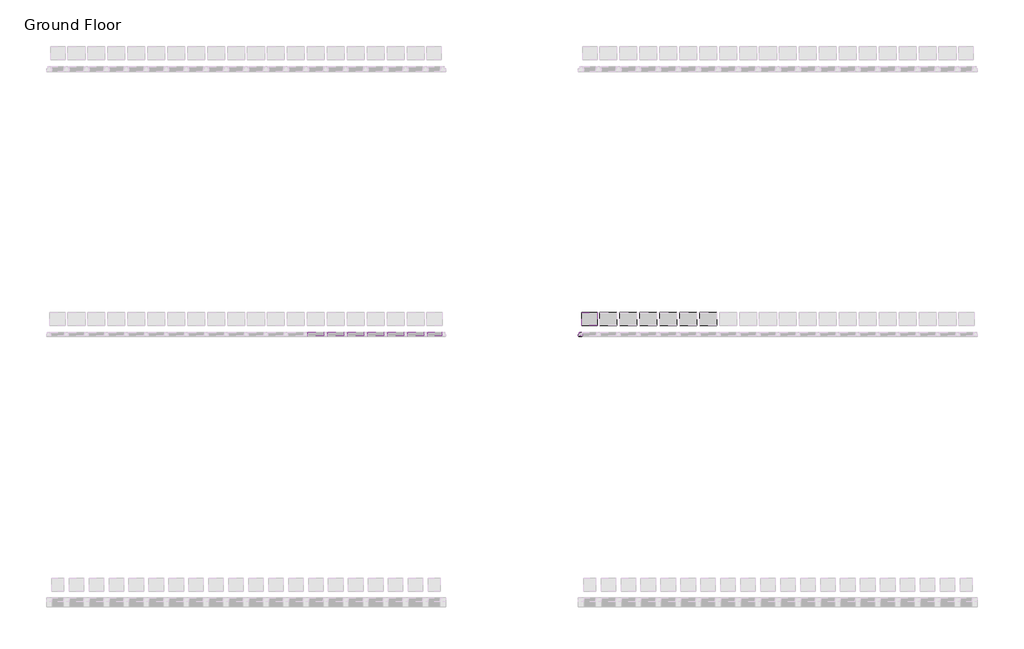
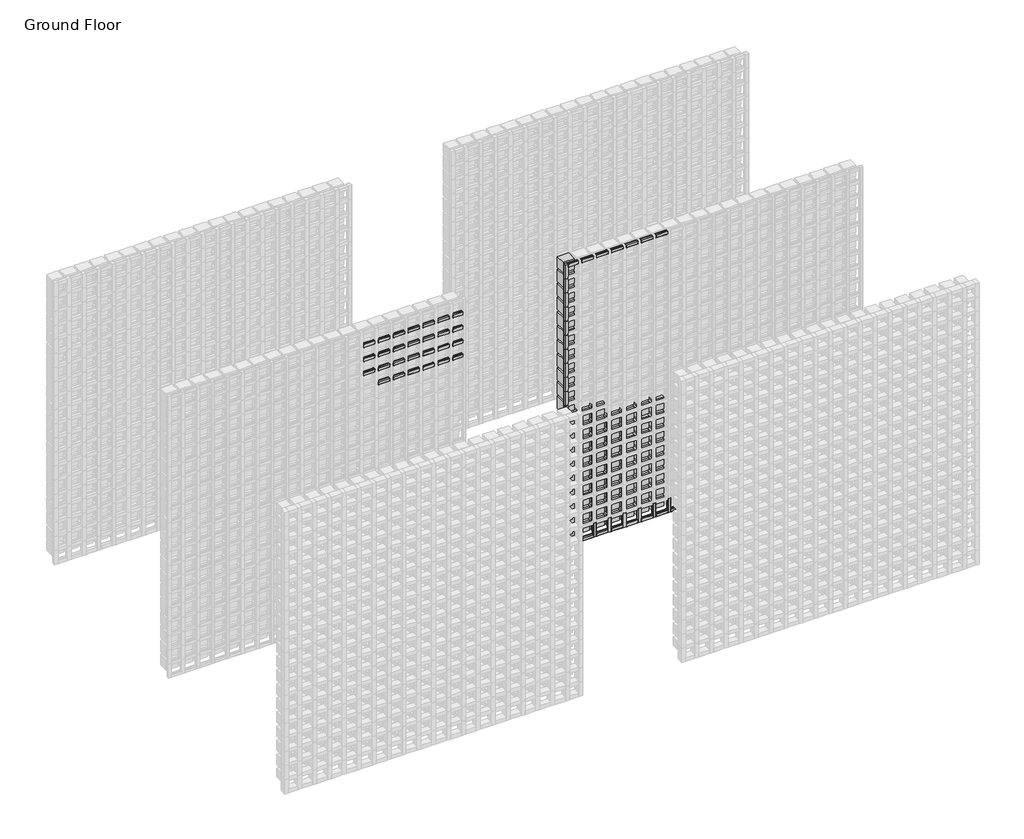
# One storey, part 135 of 350: 70 plates, 69 members.
"""IFC4 building model written with IfcOpenShell, lengths in millimetres."""

from ifc_helpers import new_model, si_unit, origin, place, context, project, spatial, transform, mapped, element, save
from components import rectangular_mullion_e2bab149, rectangular_mullion_707a50c4, rectangular_mullion_f1976eb1, rectangular_mullion_66d447bf, rectangular_mullion_02594090, rectangular_mullion_7f8dba3f, rectangular_mullion_790ae51e, rectangular_mullion_f16743ad, empty_system_panel_empty_5a3607ba, empty_system_panel_empty_c8609655, empty_system_panel_empty_babc703c, empty_system_panel_empty_53187d3d

model = new_model("IFC4")

# Units and contexts
model_context = context("Model", 3, world=origin())
ifc_project = project(units=[si_unit("LENGTHUNIT", "METRE", prefix="MILLI")], contexts=[model_context])

# Site, building, storey
site = spatial("IfcSite", under=ifc_project)
building = spatial("IfcBuilding", under=site)
storey = spatial("IfcBuildingStorey", under=building, Name="Ground Floor", Elevation=0.0)

# Members
placement = place(None, origin())
rectangular_mullion_shape = rectangular_mullion_e2bab149(model_context)
element("IfcMember", 1, ObjectType="Rectangular Mullion : Batten_Timber_Modinex_Austratus_Grid_Fin_30x30_Blackbutt", at=placement, inside=storey, context=model_context, shape_type="MappedRepresentation", body=[
    mapped(rectangular_mullion_shape, transform((8886.4361639, 42968.2978302, 2400.0), x_axis=(0.0, 0.0, 1.0), y_axis=(0.0, -1.0, 0.0), z_axis=(1.0, 0.0, 0.0))),
])
element("IfcMember", 2, ObjectType="Rectangular Mullion : Batten_Timber_Modinex_Austratus_Grid_Fin_30x30_Blackbutt", at=placement, inside=storey, context=model_context, shape_type="MappedRepresentation", body=[
    mapped(rectangular_mullion_shape, transform((8886.4361639, 42968.2978302, 2550.0), x_axis=(0.0, 0.0, 1.0), y_axis=(0.0, -1.0, 0.0), z_axis=(1.0, 0.0, 0.0))),
])
element("IfcMember", 3, ObjectType="Rectangular Mullion : Batten_Timber_Modinex_Austratus_Grid_Fin_30x30_Blackbutt", at=placement, inside=storey, context=model_context, shape_type="MappedRepresentation", body=[
    mapped(rectangular_mullion_shape, transform((8886.4361639, 42968.2978302, 2700.0), x_axis=(0.0, 0.0, 1.0), y_axis=(0.0, -1.0, 0.0), z_axis=(1.0, 0.0, 0.0))),
])
element("IfcMember", 4, ObjectType="Rectangular Mullion : Batten_Timber_Modinex_Austratus_Grid_Fin_30x30_Blackbutt", at=placement, inside=storey, context=model_context, shape_type="MappedRepresentation", body=[
    mapped(rectangular_mullion_shape, transform((8886.4361639, 42968.2978302, 2850.0), x_axis=(0.0, 0.0, 1.0), y_axis=(0.0, -1.0, 0.0), z_axis=(1.0, 0.0, 0.0))),
])
rectangular_mullion_2_shape = rectangular_mullion_707a50c4(model_context)
element("IfcMember", 5, ObjectType="Rectangular Mullion : Batten_Timber_Modinex_Austratus_Grid_Fin_30x30_Blackbutt", at=placement, inside=storey, context=model_context, shape_type="MappedRepresentation", body=[
    mapped(rectangular_mullion_2_shape, transform((8151.4361642, 42968.2978302, 2400.0), x_axis=(0.0, 0.0, 1.0), y_axis=(0.0, -1.0, 0.0), z_axis=(1.0, 0.0, 0.0))),
])
element("IfcMember", 6, ObjectType="Rectangular Mullion : Batten_Timber_Modinex_Austratus_Grid_Fin_30x30_Blackbutt", at=placement, inside=storey, context=model_context, shape_type="MappedRepresentation", body=[
    mapped(rectangular_mullion_2_shape, transform((8301.4361642, 42968.2978302, 2400.0), x_axis=(0.0, 0.0, 1.0), y_axis=(0.0, -1.0, 0.0), z_axis=(1.0, 0.0, 0.0))),
])
element("IfcMember", 7, ObjectType="Rectangular Mullion : Batten_Timber_Modinex_Austratus_Grid_Fin_30x30_Blackbutt", at=placement, inside=storey, context=model_context, shape_type="MappedRepresentation", body=[
    mapped(rectangular_mullion_2_shape, transform((8451.4361642, 42968.2978302, 2400.0), x_axis=(0.0, 0.0, 1.0), y_axis=(0.0, -1.0, 0.0), z_axis=(1.0, 0.0, 0.0))),
])
element("IfcMember", 8, ObjectType="Rectangular Mullion : Batten_Timber_Modinex_Austratus_Grid_Fin_30x30_Blackbutt", at=placement, inside=storey, context=model_context, shape_type="MappedRepresentation", body=[
    mapped(rectangular_mullion_2_shape, transform((8601.4361642, 42968.2978302, 2400.0), x_axis=(0.0, 0.0, 1.0), y_axis=(0.0, -1.0, 0.0), z_axis=(1.0, 0.0, 0.0))),
])
element("IfcMember", 9, ObjectType="Rectangular Mullion : Batten_Timber_Modinex_Austratus_Grid_Fin_30x30_Blackbutt", at=placement, inside=storey, context=model_context, shape_type="MappedRepresentation", body=[
    mapped(rectangular_mullion_2_shape, transform((8751.4361642, 42968.2978302, 2400.0), x_axis=(0.0, 0.0, 1.0), y_axis=(0.0, -1.0, 0.0), z_axis=(1.0, 0.0, 0.0))),
])
element("IfcMember", 10, ObjectType="Rectangular Mullion : Batten_Timber_Modinex_Austratus_Grid_Fin_30x30_Blackbutt", at=placement, inside=storey, context=model_context, shape_type="MappedRepresentation", body=[
    mapped(rectangular_mullion_2_shape, transform((8001.4361642, 42968.2978302, 2550.0), x_axis=(0.0, 0.0, 1.0), y_axis=(0.0, -1.0, 0.0), z_axis=(1.0, 0.0, 0.0))),
])
element("IfcMember", 11, ObjectType="Rectangular Mullion : Batten_Timber_Modinex_Austratus_Grid_Fin_30x30_Blackbutt", at=placement, inside=storey, context=model_context, shape_type="MappedRepresentation", body=[
    mapped(rectangular_mullion_2_shape, transform((8151.4361642, 42968.2978302, 2550.0), x_axis=(0.0, 0.0, 1.0), y_axis=(0.0, -1.0, 0.0), z_axis=(1.0, 0.0, 0.0))),
])
element("IfcMember", 12, ObjectType="Rectangular Mullion : Batten_Timber_Modinex_Austratus_Grid_Fin_30x30_Blackbutt", at=placement, inside=storey, context=model_context, shape_type="MappedRepresentation", body=[
    mapped(rectangular_mullion_2_shape, transform((8301.4361642, 42968.2978302, 2550.0), x_axis=(0.0, 0.0, 1.0), y_axis=(0.0, -1.0, 0.0), z_axis=(1.0, 0.0, 0.0))),
])
element("IfcMember", 13, ObjectType="Rectangular Mullion : Batten_Timber_Modinex_Austratus_Grid_Fin_30x30_Blackbutt", at=placement, inside=storey, context=model_context, shape_type="MappedRepresentation", body=[
    mapped(rectangular_mullion_2_shape, transform((8451.4361642, 42968.2978302, 2550.0), x_axis=(0.0, 0.0, 1.0), y_axis=(0.0, -1.0, 0.0), z_axis=(1.0, 0.0, 0.0))),
])
element("IfcMember", 14, ObjectType="Rectangular Mullion : Batten_Timber_Modinex_Austratus_Grid_Fin_30x30_Blackbutt", at=placement, inside=storey, context=model_context, shape_type="MappedRepresentation", body=[
    mapped(rectangular_mullion_2_shape, transform((8601.4361642, 42968.2978302, 2550.0), x_axis=(0.0, 0.0, 1.0), y_axis=(0.0, -1.0, 0.0), z_axis=(1.0, 0.0, 0.0))),
])
element("IfcMember", 15, ObjectType="Rectangular Mullion : Batten_Timber_Modinex_Austratus_Grid_Fin_30x30_Blackbutt", at=placement, inside=storey, context=model_context, shape_type="MappedRepresentation", body=[
    mapped(rectangular_mullion_2_shape, transform((8751.4361642, 42968.2978302, 2550.0), x_axis=(0.0, 0.0, 1.0), y_axis=(0.0, -1.0, 0.0), z_axis=(1.0, 0.0, 0.0))),
])
element("IfcMember", 16, ObjectType="Rectangular Mullion : Batten_Timber_Modinex_Austratus_Grid_Fin_30x30_Blackbutt", at=placement, inside=storey, context=model_context, shape_type="MappedRepresentation", body=[
    mapped(rectangular_mullion_2_shape, transform((8001.4361642, 42968.2978302, 2700.0), x_axis=(0.0, 0.0, 1.0), y_axis=(0.0, -1.0, 0.0), z_axis=(1.0, 0.0, 0.0))),
])
element("IfcMember", 17, ObjectType="Rectangular Mullion : Batten_Timber_Modinex_Austratus_Grid_Fin_30x30_Blackbutt", at=placement, inside=storey, context=model_context, shape_type="MappedRepresentation", body=[
    mapped(rectangular_mullion_2_shape, transform((8151.4361642, 42968.2978302, 2700.0), x_axis=(0.0, 0.0, 1.0), y_axis=(0.0, -1.0, 0.0), z_axis=(1.0, 0.0, 0.0))),
])
element("IfcMember", 18, ObjectType="Rectangular Mullion : Batten_Timber_Modinex_Austratus_Grid_Fin_30x30_Blackbutt", at=placement, inside=storey, context=model_context, shape_type="MappedRepresentation", body=[
    mapped(rectangular_mullion_2_shape, transform((8301.4361642, 42968.2978302, 2700.0), x_axis=(0.0, 0.0, 1.0), y_axis=(0.0, -1.0, 0.0), z_axis=(1.0, 0.0, 0.0))),
])
element("IfcMember", 19, ObjectType="Rectangular Mullion : Batten_Timber_Modinex_Austratus_Grid_Fin_30x30_Blackbutt", at=placement, inside=storey, context=model_context, shape_type="MappedRepresentation", body=[
    mapped(rectangular_mullion_2_shape, transform((8451.4361642, 42968.2978302, 2700.0), x_axis=(0.0, 0.0, 1.0), y_axis=(0.0, -1.0, 0.0), z_axis=(1.0, 0.0, 0.0))),
])
element("IfcMember", 20, ObjectType="Rectangular Mullion : Batten_Timber_Modinex_Austratus_Grid_Fin_30x30_Blackbutt", at=placement, inside=storey, context=model_context, shape_type="MappedRepresentation", body=[
    mapped(rectangular_mullion_2_shape, transform((8601.4361642, 42968.2978302, 2700.0), x_axis=(0.0, 0.0, 1.0), y_axis=(0.0, -1.0, 0.0), z_axis=(1.0, 0.0, 0.0))),
])
element("IfcMember", 21, ObjectType="Rectangular Mullion : Batten_Timber_Modinex_Austratus_Grid_Fin_30x30_Blackbutt", at=placement, inside=storey, context=model_context, shape_type="MappedRepresentation", body=[
    mapped(rectangular_mullion_2_shape, transform((8751.4361642, 42968.2978302, 2700.0), x_axis=(0.0, 0.0, 1.0), y_axis=(0.0, -1.0, 0.0), z_axis=(1.0, 0.0, 0.0))),
])
element("IfcMember", 22, ObjectType="Rectangular Mullion : Batten_Timber_Modinex_Austratus_Grid_Fin_30x30_Blackbutt", at=placement, inside=storey, context=model_context, shape_type="MappedRepresentation", body=[
    mapped(rectangular_mullion_2_shape, transform((8001.4361642, 42968.2978302, 2850.0), x_axis=(0.0, 0.0, 1.0), y_axis=(0.0, -1.0, 0.0), z_axis=(1.0, 0.0, 0.0))),
])
element("IfcMember", 23, ObjectType="Rectangular Mullion : Batten_Timber_Modinex_Austratus_Grid_Fin_30x30_Blackbutt", at=placement, inside=storey, context=model_context, shape_type="MappedRepresentation", body=[
    mapped(rectangular_mullion_2_shape, transform((8151.4361642, 42968.2978302, 2850.0), x_axis=(0.0, 0.0, 1.0), y_axis=(0.0, -1.0, 0.0), z_axis=(1.0, 0.0, 0.0))),
])
element("IfcMember", 24, ObjectType="Rectangular Mullion : Batten_Timber_Modinex_Austratus_Grid_Fin_30x30_Blackbutt", at=placement, inside=storey, context=model_context, shape_type="MappedRepresentation", body=[
    mapped(rectangular_mullion_2_shape, transform((8301.4361642, 42968.2978302, 2850.0), x_axis=(0.0, 0.0, 1.0), y_axis=(0.0, -1.0, 0.0), z_axis=(1.0, 0.0, 0.0))),
])
element("IfcMember", 25, ObjectType="Rectangular Mullion : Batten_Timber_Modinex_Austratus_Grid_Fin_30x30_Blackbutt", at=placement, inside=storey, context=model_context, shape_type="MappedRepresentation", body=[
    mapped(rectangular_mullion_2_shape, transform((8451.4361642, 42968.2978302, 2850.0), x_axis=(0.0, 0.0, 1.0), y_axis=(0.0, -1.0, 0.0), z_axis=(1.0, 0.0, 0.0))),
])
element("IfcMember", 26, ObjectType="Rectangular Mullion : Batten_Timber_Modinex_Austratus_Grid_Fin_30x30_Blackbutt", at=placement, inside=storey, context=model_context, shape_type="MappedRepresentation", body=[
    mapped(rectangular_mullion_2_shape, transform((8601.4361642, 42968.2978302, 2850.0), x_axis=(0.0, 0.0, 1.0), y_axis=(0.0, -1.0, 0.0), z_axis=(1.0, 0.0, 0.0))),
])
element("IfcMember", 27, ObjectType="Rectangular Mullion : Batten_Timber_Modinex_Austratus_Grid_Fin_30x30_Blackbutt", at=placement, inside=storey, context=model_context, shape_type="MappedRepresentation", body=[
    mapped(rectangular_mullion_2_shape, transform((8751.4361642, 42968.2978302, 2850.0), x_axis=(0.0, 0.0, 1.0), y_axis=(0.0, -1.0, 0.0), z_axis=(1.0, 0.0, 0.0))),
])
rectangular_mullion_3_shape = rectangular_mullion_f1976eb1(model_context)
element("IfcMember", 28, ObjectType="Rectangular Mullion : Batten_Timber_Modinex_Austratus_Grid_Fin_30x30_Hemlock", at=placement, inside=storey, context=model_context, shape_type="MappedRepresentation", body=[
    mapped(rectangular_mullion_3_shape, transform((10066.4361642, 42968.2978302, 0.0), x_axis=(1.0, 0.0, 0.0), y_axis=(0.0, -1.0, 0.0), z_axis=(0.0, 0.0, -1.0))),
])
element("IfcMember", 29, ObjectType="Rectangular Mullion : Batten_Timber_Modinex_Austratus_Grid_Fin_30x30_Hemlock", at=placement, inside=storey, context=model_context, shape_type="MappedRepresentation", body=[
    mapped(rectangular_mullion_3_shape, transform((10216.4361642, 42968.2978302, 0.0), x_axis=(1.0, 0.0, 0.0), y_axis=(0.0, -1.0, 0.0), z_axis=(0.0, 0.0, -1.0))),
])
element("IfcMember", 30, ObjectType="Rectangular Mullion : Batten_Timber_Modinex_Austratus_Grid_Fin_30x30_Hemlock", at=placement, inside=storey, context=model_context, shape_type="MappedRepresentation", body=[
    mapped(rectangular_mullion_3_shape, transform((10366.4361642, 42968.2978302, 0.0), x_axis=(1.0, 0.0, 0.0), y_axis=(0.0, -1.0, 0.0), z_axis=(0.0, 0.0, -1.0))),
])
element("IfcMember", 31, ObjectType="Rectangular Mullion : Batten_Timber_Modinex_Austratus_Grid_Fin_30x30_Hemlock", at=placement, inside=storey, context=model_context, shape_type="MappedRepresentation", body=[
    mapped(rectangular_mullion_3_shape, transform((10516.4361642, 42968.2978302, 0.0), x_axis=(1.0, 0.0, 0.0), y_axis=(0.0, -1.0, 0.0), z_axis=(0.0, 0.0, -1.0))),
])
element("IfcMember", 32, ObjectType="Rectangular Mullion : Batten_Timber_Modinex_Austratus_Grid_Fin_30x30_Hemlock", at=placement, inside=storey, context=model_context, shape_type="MappedRepresentation", body=[
    mapped(rectangular_mullion_3_shape, transform((10666.4361642, 42968.2978302, 0.0), x_axis=(1.0, 0.0, 0.0), y_axis=(0.0, -1.0, 0.0), z_axis=(0.0, 0.0, -1.0))),
])
element("IfcMember", 33, ObjectType="Rectangular Mullion : Batten_Timber_Modinex_Austratus_Grid_Fin_30x30_Hemlock", at=placement, inside=storey, context=model_context, shape_type="MappedRepresentation", body=[
    mapped(rectangular_mullion_3_shape, transform((10816.4361642, 42968.2978302, 0.0), x_axis=(1.0, 0.0, 0.0), y_axis=(0.0, -1.0, 0.0), z_axis=(0.0, 0.0, -1.0))),
])
element("IfcMember", 34, ObjectType="Rectangular Mullion : Batten_Timber_Modinex_Austratus_Grid_Fin_30x30_Hemlock", at=placement, inside=storey, context=model_context, shape_type="MappedRepresentation", body=[
    mapped(rectangular_mullion_3_shape, transform((10966.4361642, 42968.2978302, 0.0), x_axis=(1.0, 0.0, 0.0), y_axis=(0.0, -1.0, 0.0), z_axis=(0.0, 0.0, -1.0))),
])
rectangular_mullion_4_shape = rectangular_mullion_66d447bf(model_context)
element("IfcMember", 35, ObjectType="Rectangular Mullion : Batten_Timber_Modinex_Austratus_Grid_Fin_30x30_Hemlock", at=placement, inside=storey, context=model_context, shape_type="MappedRepresentation", body=[
    mapped(rectangular_mullion_4_shape, transform((10051.4361642, 42968.2978302, 3000.0), x_axis=(0.0, 0.0, 1.0), y_axis=(0.0, -1.0, 0.0), z_axis=(1.0, 0.0, 0.0))),
])
rectangular_mullion_5_shape = rectangular_mullion_02594090(model_context)
element("IfcMember", 36, ObjectType="Rectangular Mullion : Batten_Timber_Modinex_Austratus_Grid_Fin_30x30_Hemlock", at=placement, inside=storey, context=model_context, shape_type="MappedRepresentation", body=[
    mapped(rectangular_mullion_5_shape, transform((10201.4361642, 42968.2978302, 3000.0), x_axis=(0.0, 0.0, 1.0), y_axis=(0.0, -1.0, 0.0), z_axis=(1.0, 0.0, 0.0))),
])
element("IfcMember", 37, ObjectType="Rectangular Mullion : Batten_Timber_Modinex_Austratus_Grid_Fin_30x30_Hemlock", at=placement, inside=storey, context=model_context, shape_type="MappedRepresentation", body=[
    mapped(rectangular_mullion_5_shape, transform((10351.4361642, 42968.2978302, 3000.0), x_axis=(0.0, 0.0, 1.0), y_axis=(0.0, -1.0, 0.0), z_axis=(1.0, 0.0, 0.0))),
])
element("IfcMember", 38, ObjectType="Rectangular Mullion : Batten_Timber_Modinex_Austratus_Grid_Fin_30x30_Hemlock", at=placement, inside=storey, context=model_context, shape_type="MappedRepresentation", body=[
    mapped(rectangular_mullion_5_shape, transform((10501.4361642, 42968.2978302, 3000.0), x_axis=(0.0, 0.0, 1.0), y_axis=(0.0, -1.0, 0.0), z_axis=(1.0, 0.0, 0.0))),
])
element("IfcMember", 39, ObjectType="Rectangular Mullion : Batten_Timber_Modinex_Austratus_Grid_Fin_30x30_Hemlock", at=placement, inside=storey, context=model_context, shape_type="MappedRepresentation", body=[
    mapped(rectangular_mullion_5_shape, transform((10651.4361642, 42968.2978302, 3000.0), x_axis=(0.0, 0.0, 1.0), y_axis=(0.0, -1.0, 0.0), z_axis=(1.0, 0.0, 0.0))),
])
element("IfcMember", 40, ObjectType="Rectangular Mullion : Batten_Timber_Modinex_Austratus_Grid_Fin_30x30_Hemlock", at=placement, inside=storey, context=model_context, shape_type="MappedRepresentation", body=[
    mapped(rectangular_mullion_5_shape, transform((10801.4361642, 42968.2978302, 3000.0), x_axis=(0.0, 0.0, 1.0), y_axis=(0.0, -1.0, 0.0), z_axis=(1.0, 0.0, 0.0))),
])
element("IfcMember", 41, ObjectType="Rectangular Mullion : Batten_Timber_Modinex_Austratus_Grid_Fin_30x30_Hemlock", at=placement, inside=storey, context=model_context, shape_type="MappedRepresentation", body=[
    mapped(rectangular_mullion_5_shape, transform((10951.4361642, 42968.2978302, 3000.0), x_axis=(0.0, 0.0, 1.0), y_axis=(0.0, -1.0, 0.0), z_axis=(1.0, 0.0, 0.0))),
])
rectangular_mullion_6_shape = rectangular_mullion_7f8dba3f(model_context)
element("IfcMember", 42, ObjectType="Rectangular Mullion : Batten_Timber_Modinex_Austratus_Grid_Fin_30x30_Hemlock", at=placement, inside=storey, context=model_context, shape_type="MappedRepresentation", body=[
    mapped(rectangular_mullion_6_shape, transform((9946.4361639, 42968.2978302, 0.0), x_axis=(0.0, 0.0, -1.0), y_axis=(0.0, -1.0, 0.0), z_axis=(-1.0, 0.0, 0.0))),
])
rectangular_mullion_7_shape = rectangular_mullion_790ae51e(model_context)
element("IfcMember", 43, ObjectType="Rectangular Mullion : Batten_Timber_Modinex_Austratus_Grid_Fin_30x30_Hemlock", at=placement, inside=storey, context=model_context, shape_type="MappedRepresentation", body=[
    mapped(rectangular_mullion_7_shape, transform((10081.4361642, 42968.2978302, 0.0), x_axis=(0.0, 0.0, -1.0), y_axis=(0.0, -1.0, 0.0), z_axis=(-1.0, 0.0, 0.0))),
])
element("IfcMember", 44, ObjectType="Rectangular Mullion : Batten_Timber_Modinex_Austratus_Grid_Fin_30x30_Hemlock", at=placement, inside=storey, context=model_context, shape_type="MappedRepresentation", body=[
    mapped(rectangular_mullion_7_shape, transform((10231.4361642, 42968.2978302, 0.0), x_axis=(0.0, 0.0, -1.0), y_axis=(0.0, -1.0, 0.0), z_axis=(-1.0, 0.0, 0.0))),
])
element("IfcMember", 45, ObjectType="Rectangular Mullion : Batten_Timber_Modinex_Austratus_Grid_Fin_30x30_Hemlock", at=placement, inside=storey, context=model_context, shape_type="MappedRepresentation", body=[
    mapped(rectangular_mullion_7_shape, transform((10381.4361642, 42968.2978302, 0.0), x_axis=(0.0, 0.0, -1.0), y_axis=(0.0, -1.0, 0.0), z_axis=(-1.0, 0.0, 0.0))),
])
element("IfcMember", 46, ObjectType="Rectangular Mullion : Batten_Timber_Modinex_Austratus_Grid_Fin_30x30_Hemlock", at=placement, inside=storey, context=model_context, shape_type="MappedRepresentation", body=[
    mapped(rectangular_mullion_7_shape, transform((10531.4361642, 42968.2978302, 0.0), x_axis=(0.0, 0.0, -1.0), y_axis=(0.0, -1.0, 0.0), z_axis=(-1.0, 0.0, 0.0))),
])
element("IfcMember", 47, ObjectType="Rectangular Mullion : Batten_Timber_Modinex_Austratus_Grid_Fin_30x30_Hemlock", at=placement, inside=storey, context=model_context, shape_type="MappedRepresentation", body=[
    mapped(rectangular_mullion_7_shape, transform((10681.4361642, 42968.2978302, 0.0), x_axis=(0.0, 0.0, -1.0), y_axis=(0.0, -1.0, 0.0), z_axis=(-1.0, 0.0, 0.0))),
])
element("IfcMember", 48, ObjectType="Rectangular Mullion : Batten_Timber_Modinex_Austratus_Grid_Fin_30x30_Hemlock", at=placement, inside=storey, context=model_context, shape_type="MappedRepresentation", body=[
    mapped(rectangular_mullion_7_shape, transform((10831.4361642, 42968.2978302, 0.0), x_axis=(0.0, 0.0, -1.0), y_axis=(0.0, -1.0, 0.0), z_axis=(-1.0, 0.0, 0.0))),
])
element("IfcMember", 49, ObjectType="Rectangular Mullion : Batten_Timber_Modinex_Austratus_Grid_Fin_30x30_Hemlock", at=placement, inside=storey, context=model_context, shape_type="MappedRepresentation", body=[
    mapped(rectangular_mullion_7_shape, transform((10981.4361642, 42968.2978302, 0.0), x_axis=(0.0, 0.0, -1.0), y_axis=(0.0, -1.0, 0.0), z_axis=(-1.0, 0.0, 0.0))),
])
rectangular_mullion_8_shape = rectangular_mullion_f16743ad(model_context)
element("IfcMember", 50, ObjectType="Rectangular Mullion : Batten_Timber_Modinex_Austratus_Grid_Fin_30x30_Hemlock", at=placement, inside=storey, context=model_context, shape_type="MappedRepresentation", body=[
    mapped(rectangular_mullion_8_shape, transform((9916.4361639, 42968.2978302, 3000.0), x_axis=(-1.0, 0.0, 0.0), y_axis=(0.0, -1.0, 0.0), z_axis=(0.0, 0.0, 1.0))),
])
element("IfcMember", 51, ObjectType="Rectangular Mullion : Batten_Timber_Modinex_Austratus_Grid_Fin_30x30_Hemlock", at=placement, inside=storey, context=model_context, shape_type="MappedRepresentation", body=[
    mapped(rectangular_mullion_8_shape, transform((9916.4361639, 42968.2978302, 150.0), x_axis=(-1.0, 0.0, 0.0), y_axis=(0.0, -1.0, 0.0), z_axis=(0.0, 0.0, 1.0))),
])
element("IfcMember", 52, ObjectType="Rectangular Mullion : Batten_Timber_Modinex_Austratus_Grid_Fin_30x30_Hemlock", at=placement, inside=storey, context=model_context, shape_type="MappedRepresentation", body=[
    mapped(rectangular_mullion_8_shape, transform((9916.4361639, 42968.2978302, 300.0), x_axis=(-1.0, 0.0, 0.0), y_axis=(0.0, -1.0, 0.0), z_axis=(0.0, 0.0, 1.0))),
])
element("IfcMember", 53, ObjectType="Rectangular Mullion : Batten_Timber_Modinex_Austratus_Grid_Fin_30x30_Hemlock", at=placement, inside=storey, context=model_context, shape_type="MappedRepresentation", body=[
    mapped(rectangular_mullion_8_shape, transform((9916.4361639, 42968.2978302, 450.0), x_axis=(-1.0, 0.0, 0.0), y_axis=(0.0, -1.0, 0.0), z_axis=(0.0, 0.0, 1.0))),
])
element("IfcMember", 54, ObjectType="Rectangular Mullion : Batten_Timber_Modinex_Austratus_Grid_Fin_30x30_Hemlock", at=placement, inside=storey, context=model_context, shape_type="MappedRepresentation", body=[
    mapped(rectangular_mullion_8_shape, transform((9916.4361639, 42968.2978302, 600.0), x_axis=(-1.0, 0.0, 0.0), y_axis=(0.0, -1.0, 0.0), z_axis=(0.0, 0.0, 1.0))),
])
element("IfcMember", 55, ObjectType="Rectangular Mullion : Batten_Timber_Modinex_Austratus_Grid_Fin_30x30_Hemlock", at=placement, inside=storey, context=model_context, shape_type="MappedRepresentation", body=[
    mapped(rectangular_mullion_8_shape, transform((9916.4361639, 42968.2978302, 750.0), x_axis=(-1.0, 0.0, 0.0), y_axis=(0.0, -1.0, 0.0), z_axis=(0.0, 0.0, 1.0))),
])
element("IfcMember", 56, ObjectType="Rectangular Mullion : Batten_Timber_Modinex_Austratus_Grid_Fin_30x30_Hemlock", at=placement, inside=storey, context=model_context, shape_type="MappedRepresentation", body=[
    mapped(rectangular_mullion_8_shape, transform((9916.4361639, 42968.2978302, 900.0), x_axis=(-1.0, 0.0, 0.0), y_axis=(0.0, -1.0, 0.0), z_axis=(0.0, 0.0, 1.0))),
])
element("IfcMember", 57, ObjectType="Rectangular Mullion : Batten_Timber_Modinex_Austratus_Grid_Fin_30x30_Hemlock", at=placement, inside=storey, context=model_context, shape_type="MappedRepresentation", body=[
    mapped(rectangular_mullion_8_shape, transform((9916.4361639, 42968.2978302, 1050.0), x_axis=(-1.0, 0.0, 0.0), y_axis=(0.0, -1.0, 0.0), z_axis=(0.0, 0.0, 1.0))),
])
element("IfcMember", 58, ObjectType="Rectangular Mullion : Batten_Timber_Modinex_Austratus_Grid_Fin_30x30_Hemlock", at=placement, inside=storey, context=model_context, shape_type="MappedRepresentation", body=[
    mapped(rectangular_mullion_8_shape, transform((9916.4361639, 42968.2978302, 1200.0), x_axis=(-1.0, 0.0, 0.0), y_axis=(0.0, -1.0, 0.0), z_axis=(0.0, 0.0, 1.0))),
])
element("IfcMember", 59, ObjectType="Rectangular Mullion : Batten_Timber_Modinex_Austratus_Grid_Fin_30x30_Hemlock", at=placement, inside=storey, context=model_context, shape_type="MappedRepresentation", body=[
    mapped(rectangular_mullion_8_shape, transform((9916.4361639, 42968.2978302, 1350.0), x_axis=(-1.0, 0.0, 0.0), y_axis=(0.0, -1.0, 0.0), z_axis=(0.0, 0.0, 1.0))),
])
element("IfcMember", 60, ObjectType="Rectangular Mullion : Batten_Timber_Modinex_Austratus_Grid_Fin_30x30_Hemlock", at=placement, inside=storey, context=model_context, shape_type="MappedRepresentation", body=[
    mapped(rectangular_mullion_8_shape, transform((9916.4361639, 42968.2978302, 1500.0), x_axis=(-1.0, 0.0, 0.0), y_axis=(0.0, -1.0, 0.0), z_axis=(0.0, 0.0, 1.0))),
])
element("IfcMember", 61, ObjectType="Rectangular Mullion : Batten_Timber_Modinex_Austratus_Grid_Fin_30x30_Hemlock", at=placement, inside=storey, context=model_context, shape_type="MappedRepresentation", body=[
    mapped(rectangular_mullion_8_shape, transform((9916.4361639, 42968.2978302, 1650.0), x_axis=(-1.0, 0.0, 0.0), y_axis=(0.0, -1.0, 0.0), z_axis=(0.0, 0.0, 1.0))),
])
element("IfcMember", 62, ObjectType="Rectangular Mullion : Batten_Timber_Modinex_Austratus_Grid_Fin_30x30_Hemlock", at=placement, inside=storey, context=model_context, shape_type="MappedRepresentation", body=[
    mapped(rectangular_mullion_8_shape, transform((9916.4361639, 42968.2978302, 1800.0), x_axis=(-1.0, 0.0, 0.0), y_axis=(0.0, -1.0, 0.0), z_axis=(0.0, 0.0, 1.0))),
])
element("IfcMember", 63, ObjectType="Rectangular Mullion : Batten_Timber_Modinex_Austratus_Grid_Fin_30x30_Hemlock", at=placement, inside=storey, context=model_context, shape_type="MappedRepresentation", body=[
    mapped(rectangular_mullion_8_shape, transform((9916.4361639, 42968.2978302, 1950.0), x_axis=(-1.0, 0.0, 0.0), y_axis=(0.0, -1.0, 0.0), z_axis=(0.0, 0.0, 1.0))),
])
element("IfcMember", 64, ObjectType="Rectangular Mullion : Batten_Timber_Modinex_Austratus_Grid_Fin_30x30_Hemlock", at=placement, inside=storey, context=model_context, shape_type="MappedRepresentation", body=[
    mapped(rectangular_mullion_8_shape, transform((9916.4361639, 42968.2978302, 2100.0), x_axis=(-1.0, 0.0, 0.0), y_axis=(0.0, -1.0, 0.0), z_axis=(0.0, 0.0, 1.0))),
])
element("IfcMember", 65, ObjectType="Rectangular Mullion : Batten_Timber_Modinex_Austratus_Grid_Fin_30x30_Hemlock", at=placement, inside=storey, context=model_context, shape_type="MappedRepresentation", body=[
    mapped(rectangular_mullion_8_shape, transform((9916.4361639, 42968.2978302, 2250.0), x_axis=(-1.0, 0.0, 0.0), y_axis=(0.0, -1.0, 0.0), z_axis=(0.0, 0.0, 1.0))),
])
element("IfcMember", 66, ObjectType="Rectangular Mullion : Batten_Timber_Modinex_Austratus_Grid_Fin_30x30_Hemlock", at=placement, inside=storey, context=model_context, shape_type="MappedRepresentation", body=[
    mapped(rectangular_mullion_8_shape, transform((9916.4361639, 42968.2978302, 2400.0), x_axis=(-1.0, 0.0, 0.0), y_axis=(0.0, -1.0, 0.0), z_axis=(0.0, 0.0, 1.0))),
])
element("IfcMember", 67, ObjectType="Rectangular Mullion : Batten_Timber_Modinex_Austratus_Grid_Fin_30x30_Hemlock", at=placement, inside=storey, context=model_context, shape_type="MappedRepresentation", body=[
    mapped(rectangular_mullion_8_shape, transform((9916.4361639, 42968.2978302, 2550.0), x_axis=(-1.0, 0.0, 0.0), y_axis=(0.0, -1.0, 0.0), z_axis=(0.0, 0.0, 1.0))),
])
element("IfcMember", 68, ObjectType="Rectangular Mullion : Batten_Timber_Modinex_Austratus_Grid_Fin_30x30_Hemlock", at=placement, inside=storey, context=model_context, shape_type="MappedRepresentation", body=[
    mapped(rectangular_mullion_8_shape, transform((9916.4361639, 42968.2978302, 2700.0), x_axis=(-1.0, 0.0, 0.0), y_axis=(0.0, -1.0, 0.0), z_axis=(0.0, 0.0, 1.0))),
])
element("IfcMember", 69, ObjectType="Rectangular Mullion : Batten_Timber_Modinex_Austratus_Grid_Fin_30x30_Hemlock", at=placement, inside=storey, context=model_context, shape_type="MappedRepresentation", body=[
    mapped(rectangular_mullion_8_shape, transform((9916.4361639, 42968.2978302, 2850.0), x_axis=(-1.0, 0.0, 0.0), y_axis=(0.0, -1.0, 0.0), z_axis=(0.0, 0.0, 1.0))),
])

# Plates
empty_system_panel_empty_shape = empty_system_panel_empty_5a3607ba(model_context)
element("IfcPlate", 70, ObjectType="Empty System Panel : Empty", at=placement, inside=storey, context=model_context, shape_type="MappedRepresentation", body=[
    mapped(empty_system_panel_empty_shape, transform((10141.4361642, 42968.2978302, 160.812195), x_axis=(1.0, 0.0, 0.0), y_axis=(0.0, 1.0, 0.0), z_axis=(0.0, 0.0, 1.0))),
])
element("IfcPlate", 71, ObjectType="Empty System Panel : Empty", at=placement, inside=storey, context=model_context, shape_type="MappedRepresentation", body=[
    mapped(empty_system_panel_empty_shape, transform((10291.4361642, 42968.2978302, 160.812195), x_axis=(1.0, 0.0, 0.0), y_axis=(0.0, 1.0, 0.0), z_axis=(0.0, 0.0, 1.0))),
])
element("IfcPlate", 72, ObjectType="Empty System Panel : Empty", at=placement, inside=storey, context=model_context, shape_type="MappedRepresentation", body=[
    mapped(empty_system_panel_empty_shape, transform((10441.4361642, 42968.2978302, 160.812195), x_axis=(1.0, 0.0, 0.0), y_axis=(0.0, 1.0, 0.0), z_axis=(0.0, 0.0, 1.0))),
])
element("IfcPlate", 73, ObjectType="Empty System Panel : Empty", at=placement, inside=storey, context=model_context, shape_type="MappedRepresentation", body=[
    mapped(empty_system_panel_empty_shape, transform((10591.4361642, 42968.2978302, 160.812195), x_axis=(1.0, 0.0, 0.0), y_axis=(0.0, 1.0, 0.0), z_axis=(0.0, 0.0, 1.0))),
])
element("IfcPlate", 74, ObjectType="Empty System Panel : Empty", at=placement, inside=storey, context=model_context, shape_type="MappedRepresentation", body=[
    mapped(empty_system_panel_empty_shape, transform((10741.4361642, 42968.2978302, 160.812195), x_axis=(1.0, 0.0, 0.0), y_axis=(0.0, 1.0, 0.0), z_axis=(0.0, 0.0, 1.0))),
])
element("IfcPlate", 75, ObjectType="Empty System Panel : Empty", at=placement, inside=storey, context=model_context, shape_type="MappedRepresentation", body=[
    mapped(empty_system_panel_empty_shape, transform((10891.4361642, 42968.2978302, 160.812195), x_axis=(1.0, 0.0, 0.0), y_axis=(0.0, 1.0, 0.0), z_axis=(0.0, 0.0, 1.0))),
])
element("IfcPlate", 76, ObjectType="Empty System Panel : Empty", at=placement, inside=storey, context=model_context, shape_type="MappedRepresentation", body=[
    mapped(empty_system_panel_empty_shape, transform((10141.4361642, 42968.2978302, 310.812195), x_axis=(1.0, 0.0, 0.0), y_axis=(0.0, 1.0, 0.0), z_axis=(0.0, 0.0, 1.0))),
])
element("IfcPlate", 77, ObjectType="Empty System Panel : Empty", at=placement, inside=storey, context=model_context, shape_type="MappedRepresentation", body=[
    mapped(empty_system_panel_empty_shape, transform((10291.4361642, 42968.2978302, 310.812195), x_axis=(1.0, 0.0, 0.0), y_axis=(0.0, 1.0, 0.0), z_axis=(0.0, 0.0, 1.0))),
])
element("IfcPlate", 78, ObjectType="Empty System Panel : Empty", at=placement, inside=storey, context=model_context, shape_type="MappedRepresentation", body=[
    mapped(empty_system_panel_empty_shape, transform((10441.4361642, 42968.2978302, 310.812195), x_axis=(1.0, 0.0, 0.0), y_axis=(0.0, 1.0, 0.0), z_axis=(0.0, 0.0, 1.0))),
])
element("IfcPlate", 79, ObjectType="Empty System Panel : Empty", at=placement, inside=storey, context=model_context, shape_type="MappedRepresentation", body=[
    mapped(empty_system_panel_empty_shape, transform((10591.4361642, 42968.2978302, 310.812195), x_axis=(1.0, 0.0, 0.0), y_axis=(0.0, 1.0, 0.0), z_axis=(0.0, 0.0, 1.0))),
])
element("IfcPlate", 80, ObjectType="Empty System Panel : Empty", at=placement, inside=storey, context=model_context, shape_type="MappedRepresentation", body=[
    mapped(empty_system_panel_empty_shape, transform((10741.4361642, 42968.2978302, 310.812195), x_axis=(1.0, 0.0, 0.0), y_axis=(0.0, 1.0, 0.0), z_axis=(0.0, 0.0, 1.0))),
])
element("IfcPlate", 81, ObjectType="Empty System Panel : Empty", at=placement, inside=storey, context=model_context, shape_type="MappedRepresentation", body=[
    mapped(empty_system_panel_empty_shape, transform((10891.4361642, 42968.2978302, 310.812195), x_axis=(1.0, 0.0, 0.0), y_axis=(0.0, 1.0, 0.0), z_axis=(0.0, 0.0, 1.0))),
])
element("IfcPlate", 82, ObjectType="Empty System Panel : Empty", at=placement, inside=storey, context=model_context, shape_type="MappedRepresentation", body=[
    mapped(empty_system_panel_empty_shape, transform((10141.4361642, 42968.2978302, 460.812195), x_axis=(1.0, 0.0, 0.0), y_axis=(0.0, 1.0, 0.0), z_axis=(0.0, 0.0, 1.0))),
])
element("IfcPlate", 83, ObjectType="Empty System Panel : Empty", at=placement, inside=storey, context=model_context, shape_type="MappedRepresentation", body=[
    mapped(empty_system_panel_empty_shape, transform((10291.4361642, 42968.2978302, 460.812195), x_axis=(1.0, 0.0, 0.0), y_axis=(0.0, 1.0, 0.0), z_axis=(0.0, 0.0, 1.0))),
])
element("IfcPlate", 84, ObjectType="Empty System Panel : Empty", at=placement, inside=storey, context=model_context, shape_type="MappedRepresentation", body=[
    mapped(empty_system_panel_empty_shape, transform((10441.4361642, 42968.2978302, 460.812195), x_axis=(1.0, 0.0, 0.0), y_axis=(0.0, 1.0, 0.0), z_axis=(0.0, 0.0, 1.0))),
])
element("IfcPlate", 85, ObjectType="Empty System Panel : Empty", at=placement, inside=storey, context=model_context, shape_type="MappedRepresentation", body=[
    mapped(empty_system_panel_empty_shape, transform((10591.4361642, 42968.2978302, 460.812195), x_axis=(1.0, 0.0, 0.0), y_axis=(0.0, 1.0, 0.0), z_axis=(0.0, 0.0, 1.0))),
])
element("IfcPlate", 86, ObjectType="Empty System Panel : Empty", at=placement, inside=storey, context=model_context, shape_type="MappedRepresentation", body=[
    mapped(empty_system_panel_empty_shape, transform((10741.4361642, 42968.2978302, 460.812195), x_axis=(1.0, 0.0, 0.0), y_axis=(0.0, 1.0, 0.0), z_axis=(0.0, 0.0, 1.0))),
])
element("IfcPlate", 87, ObjectType="Empty System Panel : Empty", at=placement, inside=storey, context=model_context, shape_type="MappedRepresentation", body=[
    mapped(empty_system_panel_empty_shape, transform((10891.4361642, 42968.2978302, 460.812195), x_axis=(1.0, 0.0, 0.0), y_axis=(0.0, 1.0, 0.0), z_axis=(0.0, 0.0, 1.0))),
])
element("IfcPlate", 88, ObjectType="Empty System Panel : Empty", at=placement, inside=storey, context=model_context, shape_type="MappedRepresentation", body=[
    mapped(empty_system_panel_empty_shape, transform((10141.4361642, 42968.2978302, 610.812195), x_axis=(1.0, 0.0, 0.0), y_axis=(0.0, 1.0, 0.0), z_axis=(0.0, 0.0, 1.0))),
])
element("IfcPlate", 89, ObjectType="Empty System Panel : Empty", at=placement, inside=storey, context=model_context, shape_type="MappedRepresentation", body=[
    mapped(empty_system_panel_empty_shape, transform((10291.4361642, 42968.2978302, 610.812195), x_axis=(1.0, 0.0, 0.0), y_axis=(0.0, 1.0, 0.0), z_axis=(0.0, 0.0, 1.0))),
])
element("IfcPlate", 90, ObjectType="Empty System Panel : Empty", at=placement, inside=storey, context=model_context, shape_type="MappedRepresentation", body=[
    mapped(empty_system_panel_empty_shape, transform((10441.4361642, 42968.2978302, 610.812195), x_axis=(1.0, 0.0, 0.0), y_axis=(0.0, 1.0, 0.0), z_axis=(0.0, 0.0, 1.0))),
])
element("IfcPlate", 91, ObjectType="Empty System Panel : Empty", at=placement, inside=storey, context=model_context, shape_type="MappedRepresentation", body=[
    mapped(empty_system_panel_empty_shape, transform((10591.4361642, 42968.2978302, 610.812195), x_axis=(1.0, 0.0, 0.0), y_axis=(0.0, 1.0, 0.0), z_axis=(0.0, 0.0, 1.0))),
])
element("IfcPlate", 92, ObjectType="Empty System Panel : Empty", at=placement, inside=storey, context=model_context, shape_type="MappedRepresentation", body=[
    mapped(empty_system_panel_empty_shape, transform((10741.4361642, 42968.2978302, 610.812195), x_axis=(1.0, 0.0, 0.0), y_axis=(0.0, 1.0, 0.0), z_axis=(0.0, 0.0, 1.0))),
])
element("IfcPlate", 93, ObjectType="Empty System Panel : Empty", at=placement, inside=storey, context=model_context, shape_type="MappedRepresentation", body=[
    mapped(empty_system_panel_empty_shape, transform((10891.4361642, 42968.2978302, 610.812195), x_axis=(1.0, 0.0, 0.0), y_axis=(0.0, 1.0, 0.0), z_axis=(0.0, 0.0, 1.0))),
])
element("IfcPlate", 94, ObjectType="Empty System Panel : Empty", at=placement, inside=storey, context=model_context, shape_type="MappedRepresentation", body=[
    mapped(empty_system_panel_empty_shape, transform((10141.4361642, 42968.2978302, 760.812195), x_axis=(1.0, 0.0, 0.0), y_axis=(0.0, 1.0, 0.0), z_axis=(0.0, 0.0, 1.0))),
])
element("IfcPlate", 95, ObjectType="Empty System Panel : Empty", at=placement, inside=storey, context=model_context, shape_type="MappedRepresentation", body=[
    mapped(empty_system_panel_empty_shape, transform((10291.4361642, 42968.2978302, 760.812195), x_axis=(1.0, 0.0, 0.0), y_axis=(0.0, 1.0, 0.0), z_axis=(0.0, 0.0, 1.0))),
])
element("IfcPlate", 96, ObjectType="Empty System Panel : Empty", at=placement, inside=storey, context=model_context, shape_type="MappedRepresentation", body=[
    mapped(empty_system_panel_empty_shape, transform((10441.4361642, 42968.2978302, 760.812195), x_axis=(1.0, 0.0, 0.0), y_axis=(0.0, 1.0, 0.0), z_axis=(0.0, 0.0, 1.0))),
])
element("IfcPlate", 97, ObjectType="Empty System Panel : Empty", at=placement, inside=storey, context=model_context, shape_type="MappedRepresentation", body=[
    mapped(empty_system_panel_empty_shape, transform((10591.4361642, 42968.2978302, 760.812195), x_axis=(1.0, 0.0, 0.0), y_axis=(0.0, 1.0, 0.0), z_axis=(0.0, 0.0, 1.0))),
])
element("IfcPlate", 98, ObjectType="Empty System Panel : Empty", at=placement, inside=storey, context=model_context, shape_type="MappedRepresentation", body=[
    mapped(empty_system_panel_empty_shape, transform((10741.4361642, 42968.2978302, 760.812195), x_axis=(1.0, 0.0, 0.0), y_axis=(0.0, 1.0, 0.0), z_axis=(0.0, 0.0, 1.0))),
])
element("IfcPlate", 99, ObjectType="Empty System Panel : Empty", at=placement, inside=storey, context=model_context, shape_type="MappedRepresentation", body=[
    mapped(empty_system_panel_empty_shape, transform((10891.4361642, 42968.2978302, 760.812195), x_axis=(1.0, 0.0, 0.0), y_axis=(0.0, 1.0, 0.0), z_axis=(0.0, 0.0, 1.0))),
])
element("IfcPlate", 100, ObjectType="Empty System Panel : Empty", at=placement, inside=storey, context=model_context, shape_type="MappedRepresentation", body=[
    mapped(empty_system_panel_empty_shape, transform((10141.4361642, 42968.2978302, 910.812195), x_axis=(1.0, 0.0, 0.0), y_axis=(0.0, 1.0, 0.0), z_axis=(0.0, 0.0, 1.0))),
])
element("IfcPlate", 101, ObjectType="Empty System Panel : Empty", at=placement, inside=storey, context=model_context, shape_type="MappedRepresentation", body=[
    mapped(empty_system_panel_empty_shape, transform((10291.4361642, 42968.2978302, 910.812195), x_axis=(1.0, 0.0, 0.0), y_axis=(0.0, 1.0, 0.0), z_axis=(0.0, 0.0, 1.0))),
])
element("IfcPlate", 102, ObjectType="Empty System Panel : Empty", at=placement, inside=storey, context=model_context, shape_type="MappedRepresentation", body=[
    mapped(empty_system_panel_empty_shape, transform((10441.4361642, 42968.2978302, 910.812195), x_axis=(1.0, 0.0, 0.0), y_axis=(0.0, 1.0, 0.0), z_axis=(0.0, 0.0, 1.0))),
])
element("IfcPlate", 103, ObjectType="Empty System Panel : Empty", at=placement, inside=storey, context=model_context, shape_type="MappedRepresentation", body=[
    mapped(empty_system_panel_empty_shape, transform((10591.4361642, 42968.2978302, 910.812195), x_axis=(1.0, 0.0, 0.0), y_axis=(0.0, 1.0, 0.0), z_axis=(0.0, 0.0, 1.0))),
])
element("IfcPlate", 104, ObjectType="Empty System Panel : Empty", at=placement, inside=storey, context=model_context, shape_type="MappedRepresentation", body=[
    mapped(empty_system_panel_empty_shape, transform((10741.4361642, 42968.2978302, 910.812195), x_axis=(1.0, 0.0, 0.0), y_axis=(0.0, 1.0, 0.0), z_axis=(0.0, 0.0, 1.0))),
])
element("IfcPlate", 105, ObjectType="Empty System Panel : Empty", at=placement, inside=storey, context=model_context, shape_type="MappedRepresentation", body=[
    mapped(empty_system_panel_empty_shape, transform((10891.4361642, 42968.2978302, 910.812195), x_axis=(1.0, 0.0, 0.0), y_axis=(0.0, 1.0, 0.0), z_axis=(0.0, 0.0, 1.0))),
])
element("IfcPlate", 106, ObjectType="Empty System Panel : Empty", at=placement, inside=storey, context=model_context, shape_type="MappedRepresentation", body=[
    mapped(empty_system_panel_empty_shape, transform((10141.4361642, 42968.2978302, 1060.812195), x_axis=(1.0, 0.0, 0.0), y_axis=(0.0, 1.0, 0.0), z_axis=(0.0, 0.0, 1.0))),
])
element("IfcPlate", 107, ObjectType="Empty System Panel : Empty", at=placement, inside=storey, context=model_context, shape_type="MappedRepresentation", body=[
    mapped(empty_system_panel_empty_shape, transform((10291.4361642, 42968.2978302, 1060.812195), x_axis=(1.0, 0.0, 0.0), y_axis=(0.0, 1.0, 0.0), z_axis=(0.0, 0.0, 1.0))),
])
element("IfcPlate", 108, ObjectType="Empty System Panel : Empty", at=placement, inside=storey, context=model_context, shape_type="MappedRepresentation", body=[
    mapped(empty_system_panel_empty_shape, transform((10441.4361642, 42968.2978302, 1060.812195), x_axis=(1.0, 0.0, 0.0), y_axis=(0.0, 1.0, 0.0), z_axis=(0.0, 0.0, 1.0))),
])
element("IfcPlate", 109, ObjectType="Empty System Panel : Empty", at=placement, inside=storey, context=model_context, shape_type="MappedRepresentation", body=[
    mapped(empty_system_panel_empty_shape, transform((10591.4361642, 42968.2978302, 1060.812195), x_axis=(1.0, 0.0, 0.0), y_axis=(0.0, 1.0, 0.0), z_axis=(0.0, 0.0, 1.0))),
])
element("IfcPlate", 110, ObjectType="Empty System Panel : Empty", at=placement, inside=storey, context=model_context, shape_type="MappedRepresentation", body=[
    mapped(empty_system_panel_empty_shape, transform((10741.4361642, 42968.2978302, 1060.812195), x_axis=(1.0, 0.0, 0.0), y_axis=(0.0, 1.0, 0.0), z_axis=(0.0, 0.0, 1.0))),
])
element("IfcPlate", 111, ObjectType="Empty System Panel : Empty", at=placement, inside=storey, context=model_context, shape_type="MappedRepresentation", body=[
    mapped(empty_system_panel_empty_shape, transform((10891.4361642, 42968.2978302, 1060.812195), x_axis=(1.0, 0.0, 0.0), y_axis=(0.0, 1.0, 0.0), z_axis=(0.0, 0.0, 1.0))),
])
element("IfcPlate", 112, ObjectType="Empty System Panel : Empty", at=placement, inside=storey, context=model_context, shape_type="MappedRepresentation", body=[
    mapped(empty_system_panel_empty_shape, transform((10141.4361642, 42968.2978302, 1210.812195), x_axis=(1.0, 0.0, 0.0), y_axis=(0.0, 1.0, 0.0), z_axis=(0.0, 0.0, 1.0))),
])
element("IfcPlate", 113, ObjectType="Empty System Panel : Empty", at=placement, inside=storey, context=model_context, shape_type="MappedRepresentation", body=[
    mapped(empty_system_panel_empty_shape, transform((10291.4361642, 42968.2978302, 1210.812195), x_axis=(1.0, 0.0, 0.0), y_axis=(0.0, 1.0, 0.0), z_axis=(0.0, 0.0, 1.0))),
])
empty_system_panel_empty_2_shape = empty_system_panel_empty_c8609655(model_context)
element("IfcPlate", 114, ObjectType="Empty System Panel : Empty", at=placement, inside=storey, context=model_context, shape_type="MappedRepresentation", body=[
    mapped(empty_system_panel_empty_2_shape, transform((9998.9361641, 42968.2978302, 25.812195), x_axis=(1.0, 0.0, 0.0), y_axis=(0.0, 1.0, 0.0), z_axis=(0.0, 0.0, 1.0))),
])
element("IfcPlate", 115, ObjectType="Empty System Panel : Empty", at=placement, inside=storey, context=model_context, shape_type="MappedRepresentation", body=[
    mapped(empty_system_panel_empty_2_shape, transform((9998.9361641, 42968.2978302, 2860.812195), x_axis=(1.0, 0.0, 0.0), y_axis=(0.0, 1.0, 0.0), z_axis=(0.0, 0.0, 1.0))),
])
empty_system_panel_empty_3_shape = empty_system_panel_empty_babc703c(model_context)
element("IfcPlate", 116, ObjectType="Empty System Panel : Empty", at=placement, inside=storey, context=model_context, shape_type="MappedRepresentation", body=[
    mapped(empty_system_panel_empty_3_shape, transform((10141.4361642, 42968.2978302, 25.812195), x_axis=(1.0, 0.0, 0.0), y_axis=(0.0, 1.0, 0.0), z_axis=(0.0, 0.0, 1.0))),
])
element("IfcPlate", 117, ObjectType="Empty System Panel : Empty", at=placement, inside=storey, context=model_context, shape_type="MappedRepresentation", body=[
    mapped(empty_system_panel_empty_3_shape, transform((10291.4361642, 42968.2978302, 25.812195), x_axis=(1.0, 0.0, 0.0), y_axis=(0.0, 1.0, 0.0), z_axis=(0.0, 0.0, 1.0))),
])
element("IfcPlate", 118, ObjectType="Empty System Panel : Empty", at=placement, inside=storey, context=model_context, shape_type="MappedRepresentation", body=[
    mapped(empty_system_panel_empty_3_shape, transform((10441.4361642, 42968.2978302, 25.812195), x_axis=(1.0, 0.0, 0.0), y_axis=(0.0, 1.0, 0.0), z_axis=(0.0, 0.0, 1.0))),
])
element("IfcPlate", 119, ObjectType="Empty System Panel : Empty", at=placement, inside=storey, context=model_context, shape_type="MappedRepresentation", body=[
    mapped(empty_system_panel_empty_3_shape, transform((10591.4361642, 42968.2978302, 25.812195), x_axis=(1.0, 0.0, 0.0), y_axis=(0.0, 1.0, 0.0), z_axis=(0.0, 0.0, 1.0))),
])
element("IfcPlate", 120, ObjectType="Empty System Panel : Empty", at=placement, inside=storey, context=model_context, shape_type="MappedRepresentation", body=[
    mapped(empty_system_panel_empty_3_shape, transform((10741.4361642, 42968.2978302, 25.812195), x_axis=(1.0, 0.0, 0.0), y_axis=(0.0, 1.0, 0.0), z_axis=(0.0, 0.0, 1.0))),
])
element("IfcPlate", 121, ObjectType="Empty System Panel : Empty", at=placement, inside=storey, context=model_context, shape_type="MappedRepresentation", body=[
    mapped(empty_system_panel_empty_3_shape, transform((10891.4361642, 42968.2978302, 25.812195), x_axis=(1.0, 0.0, 0.0), y_axis=(0.0, 1.0, 0.0), z_axis=(0.0, 0.0, 1.0))),
])
empty_system_panel_empty_4_shape = empty_system_panel_empty_53187d3d(model_context)
element("IfcPlate", 122, ObjectType="Empty System Panel : Empty", at=placement, inside=storey, context=model_context, shape_type="MappedRepresentation", body=[
    mapped(empty_system_panel_empty_4_shape, transform((9998.9361641, 42968.2978302, 160.812195), x_axis=(1.0, 0.0, 0.0), y_axis=(0.0, 1.0, 0.0), z_axis=(0.0, 0.0, 1.0))),
])
element("IfcPlate", 123, ObjectType="Empty System Panel : Empty", at=placement, inside=storey, context=model_context, shape_type="MappedRepresentation", body=[
    mapped(empty_system_panel_empty_4_shape, transform((9998.9361641, 42968.2978302, 310.812195), x_axis=(1.0, 0.0, 0.0), y_axis=(0.0, 1.0, 0.0), z_axis=(0.0, 0.0, 1.0))),
])
element("IfcPlate", 124, ObjectType="Empty System Panel : Empty", at=placement, inside=storey, context=model_context, shape_type="MappedRepresentation", body=[
    mapped(empty_system_panel_empty_4_shape, transform((9998.9361641, 42968.2978302, 460.812195), x_axis=(1.0, 0.0, 0.0), y_axis=(0.0, 1.0, 0.0), z_axis=(0.0, 0.0, 1.0))),
])
element("IfcPlate", 125, ObjectType="Empty System Panel : Empty", at=placement, inside=storey, context=model_context, shape_type="MappedRepresentation", body=[
    mapped(empty_system_panel_empty_4_shape, transform((9998.9361641, 42968.2978302, 610.812195), x_axis=(1.0, 0.0, 0.0), y_axis=(0.0, 1.0, 0.0), z_axis=(0.0, 0.0, 1.0))),
])
element("IfcPlate", 126, ObjectType="Empty System Panel : Empty", at=placement, inside=storey, context=model_context, shape_type="MappedRepresentation", body=[
    mapped(empty_system_panel_empty_4_shape, transform((9998.9361641, 42968.2978302, 760.812195), x_axis=(1.0, 0.0, 0.0), y_axis=(0.0, 1.0, 0.0), z_axis=(0.0, 0.0, 1.0))),
])
element("IfcPlate", 127, ObjectType="Empty System Panel : Empty", at=placement, inside=storey, context=model_context, shape_type="MappedRepresentation", body=[
    mapped(empty_system_panel_empty_4_shape, transform((9998.9361641, 42968.2978302, 910.812195), x_axis=(1.0, 0.0, 0.0), y_axis=(0.0, 1.0, 0.0), z_axis=(0.0, 0.0, 1.0))),
])
element("IfcPlate", 128, ObjectType="Empty System Panel : Empty", at=placement, inside=storey, context=model_context, shape_type="MappedRepresentation", body=[
    mapped(empty_system_panel_empty_4_shape, transform((9998.9361641, 42968.2978302, 1060.812195), x_axis=(1.0, 0.0, 0.0), y_axis=(0.0, 1.0, 0.0), z_axis=(0.0, 0.0, 1.0))),
])
element("IfcPlate", 129, ObjectType="Empty System Panel : Empty", at=placement, inside=storey, context=model_context, shape_type="MappedRepresentation", body=[
    mapped(empty_system_panel_empty_4_shape, transform((9998.9361641, 42968.2978302, 1210.812195), x_axis=(1.0, 0.0, 0.0), y_axis=(0.0, 1.0, 0.0), z_axis=(0.0, 0.0, 1.0))),
])
element("IfcPlate", 130, ObjectType="Empty System Panel : Empty", at=placement, inside=storey, context=model_context, shape_type="MappedRepresentation", body=[
    mapped(empty_system_panel_empty_4_shape, transform((9998.9361641, 42968.2978302, 1360.812195), x_axis=(1.0, 0.0, 0.0), y_axis=(0.0, 1.0, 0.0), z_axis=(0.0, 0.0, 1.0))),
])
element("IfcPlate", 131, ObjectType="Empty System Panel : Empty", at=placement, inside=storey, context=model_context, shape_type="MappedRepresentation", body=[
    mapped(empty_system_panel_empty_4_shape, transform((9998.9361641, 42968.2978302, 1510.812195), x_axis=(1.0, 0.0, 0.0), y_axis=(0.0, 1.0, 0.0), z_axis=(0.0, 0.0, 1.0))),
])
element("IfcPlate", 132, ObjectType="Empty System Panel : Empty", at=placement, inside=storey, context=model_context, shape_type="MappedRepresentation", body=[
    mapped(empty_system_panel_empty_4_shape, transform((9998.9361641, 42968.2978302, 1660.812195), x_axis=(1.0, 0.0, 0.0), y_axis=(0.0, 1.0, 0.0), z_axis=(0.0, 0.0, 1.0))),
])
element("IfcPlate", 133, ObjectType="Empty System Panel : Empty", at=placement, inside=storey, context=model_context, shape_type="MappedRepresentation", body=[
    mapped(empty_system_panel_empty_4_shape, transform((9998.9361641, 42968.2978302, 1810.812195), x_axis=(1.0, 0.0, 0.0), y_axis=(0.0, 1.0, 0.0), z_axis=(0.0, 0.0, 1.0))),
])
element("IfcPlate", 134, ObjectType="Empty System Panel : Empty", at=placement, inside=storey, context=model_context, shape_type="MappedRepresentation", body=[
    mapped(empty_system_panel_empty_4_shape, transform((9998.9361641, 42968.2978302, 1960.812195), x_axis=(1.0, 0.0, 0.0), y_axis=(0.0, 1.0, 0.0), z_axis=(0.0, 0.0, 1.0))),
])
element("IfcPlate", 135, ObjectType="Empty System Panel : Empty", at=placement, inside=storey, context=model_context, shape_type="MappedRepresentation", body=[
    mapped(empty_system_panel_empty_4_shape, transform((9998.9361641, 42968.2978302, 2110.812195), x_axis=(1.0, 0.0, 0.0), y_axis=(0.0, 1.0, 0.0), z_axis=(0.0, 0.0, 1.0))),
])
element("IfcPlate", 136, ObjectType="Empty System Panel : Empty", at=placement, inside=storey, context=model_context, shape_type="MappedRepresentation", body=[
    mapped(empty_system_panel_empty_4_shape, transform((9998.9361641, 42968.2978302, 2260.812195), x_axis=(1.0, 0.0, 0.0), y_axis=(0.0, 1.0, 0.0), z_axis=(0.0, 0.0, 1.0))),
])
element("IfcPlate", 137, ObjectType="Empty System Panel : Empty", at=placement, inside=storey, context=model_context, shape_type="MappedRepresentation", body=[
    mapped(empty_system_panel_empty_4_shape, transform((9998.9361641, 42968.2978302, 2410.812195), x_axis=(1.0, 0.0, 0.0), y_axis=(0.0, 1.0, 0.0), z_axis=(0.0, 0.0, 1.0))),
])
element("IfcPlate", 138, ObjectType="Empty System Panel : Empty", at=placement, inside=storey, context=model_context, shape_type="MappedRepresentation", body=[
    mapped(empty_system_panel_empty_4_shape, transform((9998.9361641, 42968.2978302, 2560.812195), x_axis=(1.0, 0.0, 0.0), y_axis=(0.0, 1.0, 0.0), z_axis=(0.0, 0.0, 1.0))),
])
element("IfcPlate", 139, ObjectType="Empty System Panel : Empty", at=placement, inside=storey, context=model_context, shape_type="MappedRepresentation", body=[
    mapped(empty_system_panel_empty_4_shape, transform((9998.9361641, 42968.2978302, 2710.812195), x_axis=(1.0, 0.0, 0.0), y_axis=(0.0, 1.0, 0.0), z_axis=(0.0, 0.0, 1.0))),
])

save(model, "model.ifc")
